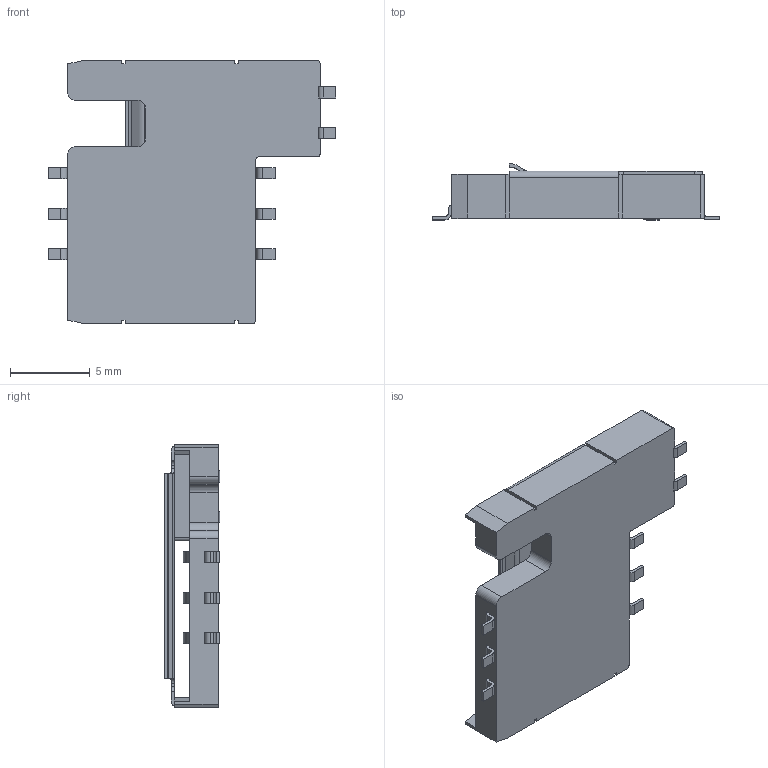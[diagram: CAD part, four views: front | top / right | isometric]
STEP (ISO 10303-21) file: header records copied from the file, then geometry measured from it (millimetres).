
FILE_DESCRIPTION (( 'STEP AP214' ), '1' );
FILE_NAME ('CCM03 MKIII WOSIM.STEP', '2011-05-17T10:14:08', ( 'vpeshkov' ), ( 'licard' ), 'SwSTEP 2.0', 'SolidWorks 2009', '' );
FILE_SCHEMA (( 'AUTOMOTIVE_DESIGN' ));
Length unit declared in the file: millimetre
Products named in the file (1): CCM03 MKIII WOSIM
Bounding box: 18.06 x 3.5 x 16.5 mm (x, y, z)
Volume: 414.6 mm3; surface area: 882.9 mm2
Topology: 1 solids, 1 shells, 196 faces, 566 edges, 373 vertices
Faces by surface type: plane 126, cylinder 70
Entity records: 8143 total; most frequent: CARTESIAN_POINT 1162, ORIENTED_EDGE 1132, DIRECTION 1090, EDGE_CURVE 566, VECTOR 424, LINE 424, VERTEX_POINT 373, AXIS2_PLACEMENT_3D 333
